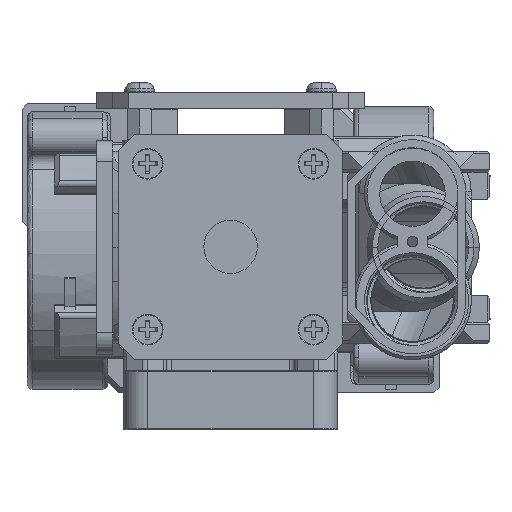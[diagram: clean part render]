
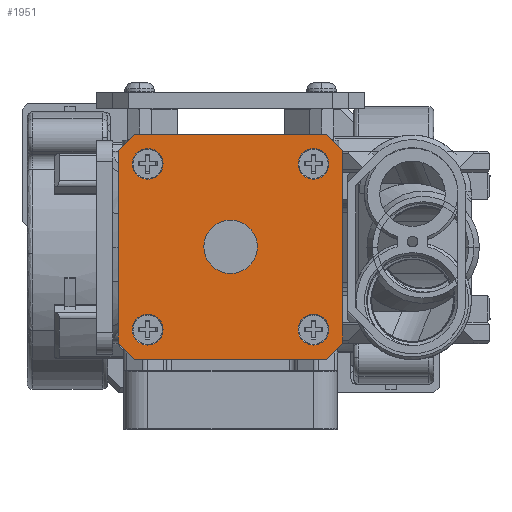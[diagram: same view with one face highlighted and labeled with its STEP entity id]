
A CAD part, top view. The second image highlights one B-rep face of the part: STEP entity #1951.
In plain terms, the highlighted planar face has unit normal (0, 0, 1).
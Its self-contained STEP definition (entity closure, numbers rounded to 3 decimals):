
#558=FACE_BOUND('',#10268,.T.);
#559=FACE_BOUND('',#10269,.T.);
#560=FACE_BOUND('',#10270,.T.);
#561=FACE_BOUND('',#10271,.T.);
#562=FACE_BOUND('',#10272,.T.);
#1951=ADVANCED_FACE('',(#6029,#558,#559,#560,#561,#562),#68139,.T.);
#6029=FACE_OUTER_BOUND('',#10267,.T.);
#10267=EDGE_LOOP('',(#19018,#19019,#19020,#19021,#19022,#19023,#19024,#19025));
#10268=EDGE_LOOP('',(#19026,#19027));
#10269=EDGE_LOOP('',(#19028,#19029));
#10270=EDGE_LOOP('',(#19030,#19031));
#10271=EDGE_LOOP('',(#19032,#19033));
#10272=EDGE_LOOP('',(#19034,#19035));
#19018=ORIENTED_EDGE('',*,*,#37378,.F.);
#19019=ORIENTED_EDGE('',*,*,#37371,.T.);
#19020=ORIENTED_EDGE('',*,*,#37377,.F.);
#19021=ORIENTED_EDGE('',*,*,#37345,.T.);
#19022=ORIENTED_EDGE('',*,*,#37376,.F.);
#19023=ORIENTED_EDGE('',*,*,#37355,.T.);
#19024=ORIENTED_EDGE('',*,*,#37375,.F.);
#19025=ORIENTED_EDGE('',*,*,#37379,.F.);
#19026=ORIENTED_EDGE('',*,*,#37030,.T.);
#19027=ORIENTED_EDGE('',*,*,#37394,.F.);
#19028=ORIENTED_EDGE('',*,*,#37335,.T.);
#19029=ORIENTED_EDGE('',*,*,#37034,.T.);
#19030=ORIENTED_EDGE('',*,*,#37333,.T.);
#19031=ORIENTED_EDGE('',*,*,#37038,.T.);
#19032=ORIENTED_EDGE('',*,*,#37331,.T.);
#19033=ORIENTED_EDGE('',*,*,#37042,.T.);
#19034=ORIENTED_EDGE('',*,*,#37329,.T.);
#19035=ORIENTED_EDGE('',*,*,#37046,.T.);
#37030=EDGE_CURVE('',#60324,#60325,#46954,.T.);
#37034=EDGE_CURVE('',#60328,#60329,#46956,.T.);
#37038=EDGE_CURVE('',#60332,#60333,#46958,.T.);
#37042=EDGE_CURVE('',#60336,#60337,#46960,.T.);
#37046=EDGE_CURVE('',#60340,#60341,#46962,.T.);
#37329=EDGE_CURVE('',#60341,#60340,#46980,.T.);
#37331=EDGE_CURVE('',#60337,#60336,#46982,.T.);
#37333=EDGE_CURVE('',#60333,#60332,#46984,.T.);
#37335=EDGE_CURVE('',#60329,#60328,#46986,.T.);
#37345=EDGE_CURVE('',#60527,#60528,#53908,.T.);
#37355=EDGE_CURVE('',#60535,#60536,#53918,.T.);
#37371=EDGE_CURVE('',#60549,#60550,#53934,.T.);
#37375=EDGE_CURVE('',#60552,#60536,#53938,.T.);
#37376=EDGE_CURVE('',#60535,#60528,#53939,.T.);
#37377=EDGE_CURVE('',#60527,#60550,#53940,.T.);
#37378=EDGE_CURVE('',#60549,#60551,#53941,.T.);
#37379=EDGE_CURVE('',#60551,#60552,#53942,.T.);
#37394=EDGE_CURVE('',#60324,#60325,#46989,.T.);
#46954=TRIMMED_CURVE($,#50007,(#100703),(#100704),.T.,.CARTESIAN.);
#46956=TRIMMED_CURVE($,#50009,(#100713),(#100714),.T.,.CARTESIAN.);
#46958=TRIMMED_CURVE($,#50011,(#100723),(#100724),.T.,.CARTESIAN.);
#46960=TRIMMED_CURVE($,#50013,(#100733),(#100734),.T.,.CARTESIAN.);
#46962=TRIMMED_CURVE($,#50015,(#100743),(#100744),.T.,.CARTESIAN.);
#46980=TRIMMED_CURVE($,#50033,(#101343),(#101344),.T.,.CARTESIAN.);
#46982=TRIMMED_CURVE($,#50035,(#101349),(#101350),.T.,.CARTESIAN.);
#46984=TRIMMED_CURVE($,#50037,(#101355),(#101356),.T.,.CARTESIAN.);
#46986=TRIMMED_CURVE($,#50039,(#101361),(#101362),.T.,.CARTESIAN.);
#46989=TRIMMED_CURVE($,#50042,(#101482),(#101483),.T.,.CARTESIAN.);
#50007=CIRCLE('',#73353,5.);
#50009=CIRCLE('',#73355,2.875);
#50011=CIRCLE('',#73357,2.875);
#50013=CIRCLE('',#73359,2.875);
#50015=CIRCLE('',#73361,2.875);
#50033=CIRCLE('',#73379,2.875);
#50035=CIRCLE('',#73381,2.875);
#50037=CIRCLE('',#73383,2.875);
#50039=CIRCLE('',#73385,2.875);
#50042=CIRCLE('',#73388,5.);
#53908=B_SPLINE_CURVE_WITH_KNOTS('',1,(#101382,#101383),.UNSPECIFIED.,.F.,
 .F.,(2,2),(0.,4.243),.UNSPECIFIED.);
#53918=B_SPLINE_CURVE_WITH_KNOTS('',1,(#101402,#101403),.UNSPECIFIED.,.F.,
 .F.,(2,2),(0.,4.243),.UNSPECIFIED.);
#53934=B_SPLINE_CURVE_WITH_KNOTS('',1,(#101434,#101435),.UNSPECIFIED.,.F.,
 .F.,(2,2),(0.,4.243),.UNSPECIFIED.);
#53938=B_SPLINE_CURVE_WITH_KNOTS('',1,(#101442,#101443),.UNSPECIFIED.,.F.,
 .F.,(2,2),(0.,36.),.UNSPECIFIED.);
#53939=B_SPLINE_CURVE_WITH_KNOTS('',1,(#101444,#101445),.UNSPECIFIED.,.F.,
 .F.,(2,2),(0.,36.),.UNSPECIFIED.);
#53940=B_SPLINE_CURVE_WITH_KNOTS('',1,(#101446,#101447),.UNSPECIFIED.,.F.,
 .F.,(2,2),(0.,36.),.UNSPECIFIED.);
#53941=B_SPLINE_CURVE_WITH_KNOTS('',1,(#101448,#101449),.UNSPECIFIED.,.F.,
 .F.,(2,2),(0.,36.),.UNSPECIFIED.);
#53942=B_SPLINE_CURVE_WITH_KNOTS('',1,(#101450,#101451),.UNSPECIFIED.,.F.,
 .F.,(2,2),(-4.243,0.),.UNSPECIFIED.);
#60324=VERTEX_POINT('',#100457);
#60325=VERTEX_POINT('',#100458);
#60328=VERTEX_POINT('',#100461);
#60329=VERTEX_POINT('',#100462);
#60332=VERTEX_POINT('',#100465);
#60333=VERTEX_POINT('',#100466);
#60336=VERTEX_POINT('',#100469);
#60337=VERTEX_POINT('',#100470);
#60340=VERTEX_POINT('',#100473);
#60341=VERTEX_POINT('',#100474);
#60527=VERTEX_POINT('',#100660);
#60528=VERTEX_POINT('',#100661);
#60535=VERTEX_POINT('',#100668);
#60536=VERTEX_POINT('',#100669);
#60549=VERTEX_POINT('',#100682);
#60550=VERTEX_POINT('',#100683);
#60551=VERTEX_POINT('',#100684);
#60552=VERTEX_POINT('',#100685);
#68139=PLANE('',#73342);
#73342=AXIS2_PLACEMENT_3D('',#100437,#80400,$);
#73353=AXIS2_PLACEMENT_3D($,#100702,#80411,#80412);
#73355=AXIS2_PLACEMENT_3D($,#100712,#80415,#80416);
#73357=AXIS2_PLACEMENT_3D($,#100722,#80419,#80420);
#73359=AXIS2_PLACEMENT_3D($,#100732,#80423,#80424);
#73361=AXIS2_PLACEMENT_3D($,#100742,#80427,#80428);
#73379=AXIS2_PLACEMENT_3D($,#101342,#80463,#80464);
#73381=AXIS2_PLACEMENT_3D($,#101348,#80467,#80468);
#73383=AXIS2_PLACEMENT_3D($,#101354,#80471,#80472);
#73385=AXIS2_PLACEMENT_3D($,#101360,#80475,#80476);
#73388=AXIS2_PLACEMENT_3D($,#101481,#80481,#80482);
#80400=DIRECTION('',(0.,0.,1.));
#80411=DIRECTION('',(0.,0.,-1.));
#80412=DIRECTION('',(0.,1.,0.));
#80415=DIRECTION('',(0.,0.,-1.));
#80416=DIRECTION('',(0.,1.,0.));
#80419=DIRECTION('',(0.,0.,-1.));
#80420=DIRECTION('',(0.,1.,0.));
#80423=DIRECTION('',(0.,0.,-1.));
#80424=DIRECTION('',(0.,1.,0.));
#80427=DIRECTION('',(0.,0.,-1.));
#80428=DIRECTION('',(0.,1.,0.));
#80463=DIRECTION('',(0.,0.,-1.));
#80464=DIRECTION('',(0.,-1.,0.));
#80467=DIRECTION('',(0.,0.,-1.));
#80468=DIRECTION('',(0.,-1.,0.));
#80471=DIRECTION('',(0.,0.,-1.));
#80472=DIRECTION('',(0.,-1.,0.));
#80475=DIRECTION('',(0.,0.,-1.));
#80476=DIRECTION('',(0.,-1.,0.));
#80481=DIRECTION('',(0.,0.,1.));
#80482=DIRECTION('',(0.,1.,0.));
#100437=CARTESIAN_POINT('',(25.212,-25.212,172.3));
#100457=CARTESIAN_POINT('',(0.,5.,172.3));
#100458=CARTESIAN_POINT('',(0.,-5.,172.3));
#100461=CARTESIAN_POINT('',(-15.5,18.375,172.3));
#100462=CARTESIAN_POINT('',(-15.5,12.625,172.3));
#100465=CARTESIAN_POINT('',(15.5,18.375,172.3));
#100466=CARTESIAN_POINT('',(15.5,12.625,172.3));
#100469=CARTESIAN_POINT('',(-15.5,-12.625,172.3));
#100470=CARTESIAN_POINT('',(-15.5,-18.375,172.3));
#100473=CARTESIAN_POINT('',(15.5,-12.625,172.3));
#100474=CARTESIAN_POINT('',(15.5,-18.375,172.3));
#100660=CARTESIAN_POINT('',(21.,18.,172.3));
#100661=CARTESIAN_POINT('',(18.,21.,172.3));
#100668=CARTESIAN_POINT('',(-18.,21.,172.3));
#100669=CARTESIAN_POINT('',(-21.,18.,172.3));
#100682=CARTESIAN_POINT('',(18.,-21.,172.3));
#100683=CARTESIAN_POINT('',(21.,-18.,172.3));
#100684=CARTESIAN_POINT('',(-18.,-21.,172.3));
#100685=CARTESIAN_POINT('',(-21.,-18.,172.3));
#100702=CARTESIAN_POINT('',(0.,0.,172.3));
#100703=CARTESIAN_POINT('',(0.,5.,172.3));
#100704=CARTESIAN_POINT('',(0.,-5.,172.3));
#100712=CARTESIAN_POINT('',(-15.5,15.5,172.3));
#100713=CARTESIAN_POINT('',(-15.5,18.375,172.3));
#100714=CARTESIAN_POINT('',(-15.5,12.625,172.3));
#100722=CARTESIAN_POINT('',(15.5,15.5,172.3));
#100723=CARTESIAN_POINT('',(15.5,18.375,172.3));
#100724=CARTESIAN_POINT('',(15.5,12.625,172.3));
#100732=CARTESIAN_POINT('',(-15.5,-15.5,172.3));
#100733=CARTESIAN_POINT('',(-15.5,-12.625,172.3));
#100734=CARTESIAN_POINT('',(-15.5,-18.375,172.3));
#100742=CARTESIAN_POINT('',(15.5,-15.5,172.3));
#100743=CARTESIAN_POINT('',(15.5,-12.625,172.3));
#100744=CARTESIAN_POINT('',(15.5,-18.375,172.3));
#101342=CARTESIAN_POINT('',(15.5,-15.5,172.3));
#101343=CARTESIAN_POINT('',(15.5,-18.375,172.3));
#101344=CARTESIAN_POINT('',(15.5,-12.625,172.3));
#101348=CARTESIAN_POINT('',(-15.5,-15.5,172.3));
#101349=CARTESIAN_POINT('',(-15.5,-18.375,172.3));
#101350=CARTESIAN_POINT('',(-15.5,-12.625,172.3));
#101354=CARTESIAN_POINT('',(15.5,15.5,172.3));
#101355=CARTESIAN_POINT('',(15.5,12.625,172.3));
#101356=CARTESIAN_POINT('',(15.5,18.375,172.3));
#101360=CARTESIAN_POINT('',(-15.5,15.5,172.3));
#101361=CARTESIAN_POINT('',(-15.5,12.625,172.3));
#101362=CARTESIAN_POINT('',(-15.5,18.375,172.3));
#101382=CARTESIAN_POINT('',(21.,18.,172.3));
#101383=CARTESIAN_POINT('',(18.,21.,172.3));
#101402=CARTESIAN_POINT('',(-18.,21.,172.3));
#101403=CARTESIAN_POINT('',(-21.,18.,172.3));
#101434=CARTESIAN_POINT('',(18.,-21.,172.3));
#101435=CARTESIAN_POINT('',(21.,-18.,172.3));
#101442=CARTESIAN_POINT('',(-21.,-18.,172.3));
#101443=CARTESIAN_POINT('',(-21.,18.,172.3));
#101444=CARTESIAN_POINT('',(-18.,21.,172.3));
#101445=CARTESIAN_POINT('',(18.,21.,172.3));
#101446=CARTESIAN_POINT('',(21.,18.,172.3));
#101447=CARTESIAN_POINT('',(21.,-18.,172.3));
#101448=CARTESIAN_POINT('',(18.,-21.,172.3));
#101449=CARTESIAN_POINT('',(-18.,-21.,172.3));
#101450=CARTESIAN_POINT('',(-18.,-21.,172.3));
#101451=CARTESIAN_POINT('',(-21.,-18.,172.3));
#101481=CARTESIAN_POINT('',(0.,0.,172.3));
#101482=CARTESIAN_POINT('',(0.,5.,172.3));
#101483=CARTESIAN_POINT('',(0.,-5.,172.3));
